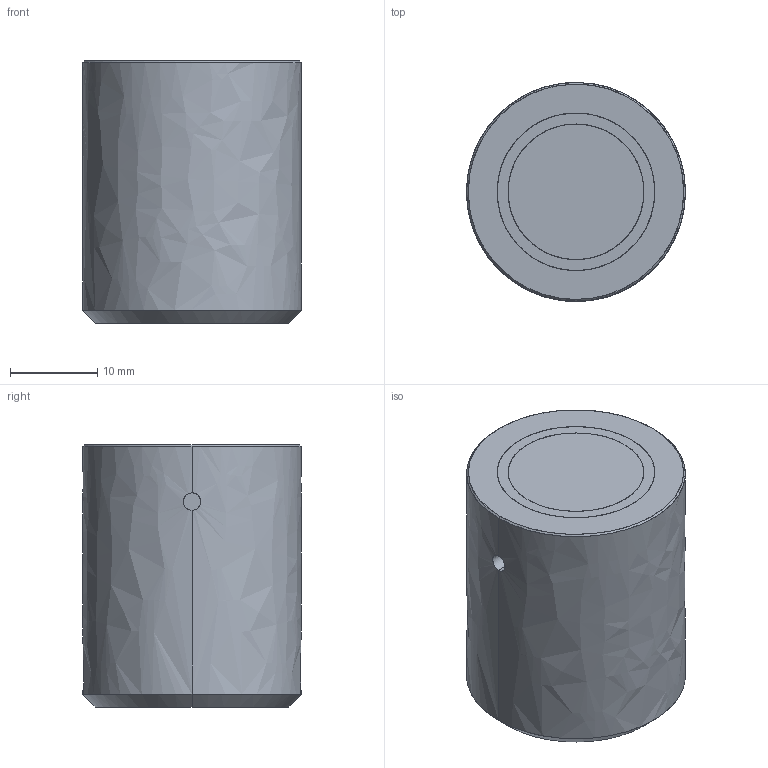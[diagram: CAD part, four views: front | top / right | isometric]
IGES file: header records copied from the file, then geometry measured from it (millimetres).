
Global section: file name: E:\UnigraphicsGraphicData\MISUMI_PRESS-PARTS\IGES\3d_mg25_00556_r00.igs; native system: NX V5.0; preprocessor: UGS NX IGES V5.0; author: MISUMI; date: 20110105.161401; units: millimetre
Bounding box: 25 x 25 x 30 mm (x, y, z)
Surface area: 6407.2 mm2 (no closed solid volume)
Topology: 0 solids, 0 shells, 35 faces, 290 edges, 290 vertices
Faces by surface type: bspline 35
